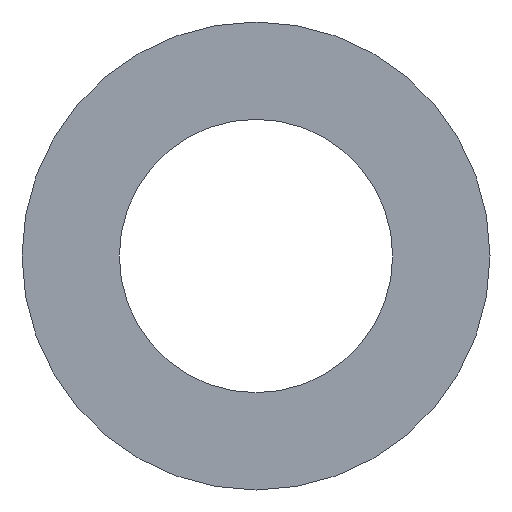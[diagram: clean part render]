
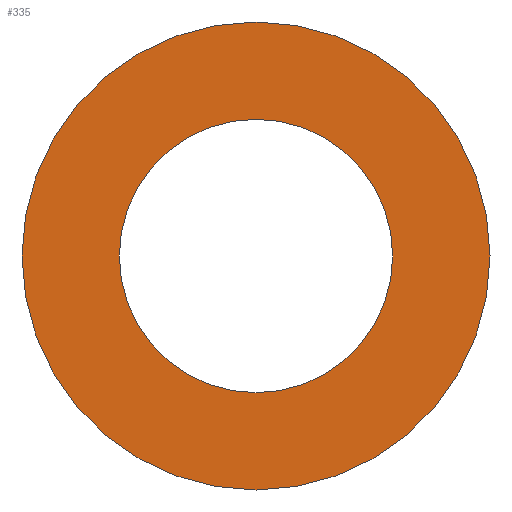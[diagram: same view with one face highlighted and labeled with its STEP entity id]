
A CAD part, left-side view. The second image highlights one B-rep face of the part: STEP entity #335.
In plain terms, the highlighted planar face has unit normal (-1, 0, 0).
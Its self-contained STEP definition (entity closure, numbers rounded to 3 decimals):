
#200=CARTESIAN_POINT('',(0.,22.25,0.0));
#201=VERTEX_POINT('',#200);
#202=CARTESIAN_POINT('',(0.,0.0,0.0));
#203=DIRECTION('',(1.0,0.0,0.0));
#204=DIRECTION('',(0.0,1.0,0.0));
#205=AXIS2_PLACEMENT_3D('',#202,#203,#204);
#206=CIRCLE('',#205,22.25);
#207=EDGE_CURVE('',#201,#201,#206,.T.);
#309=CARTESIAN_POINT('',(0.,13.0,0.0));
#310=VERTEX_POINT('',#309);
#311=CARTESIAN_POINT('',(0.,0.0,0.0));
#312=DIRECTION('',(1.0,0.0,0.0));
#313=DIRECTION('',(0.0,1.0,0.0));
#314=AXIS2_PLACEMENT_3D('',#311,#312,#313);
#315=CIRCLE('',#314,13.0);
#316=EDGE_CURVE('',#310,#310,#315,.T.);
#324=CARTESIAN_POINT('',(0.,17.625,0.0));
#325=DIRECTION('',(-1.0,0.0,0.0));
#326=DIRECTION('',(0.0,0.0,1.0));
#327=AXIS2_PLACEMENT_3D('',#324,#325,#326);
#328=PLANE('',#327);
#329=ORIENTED_EDGE('',*,*,#207,.F.);
#330=EDGE_LOOP('',(#329));
#331=FACE_OUTER_BOUND('',#330,.T.);
#332=ORIENTED_EDGE('',*,*,#316,.T.);
#333=EDGE_LOOP('',(#332));
#334=FACE_BOUND('',#333,.T.);
#335=ADVANCED_FACE('',(#331,#334),#328,.T.);
